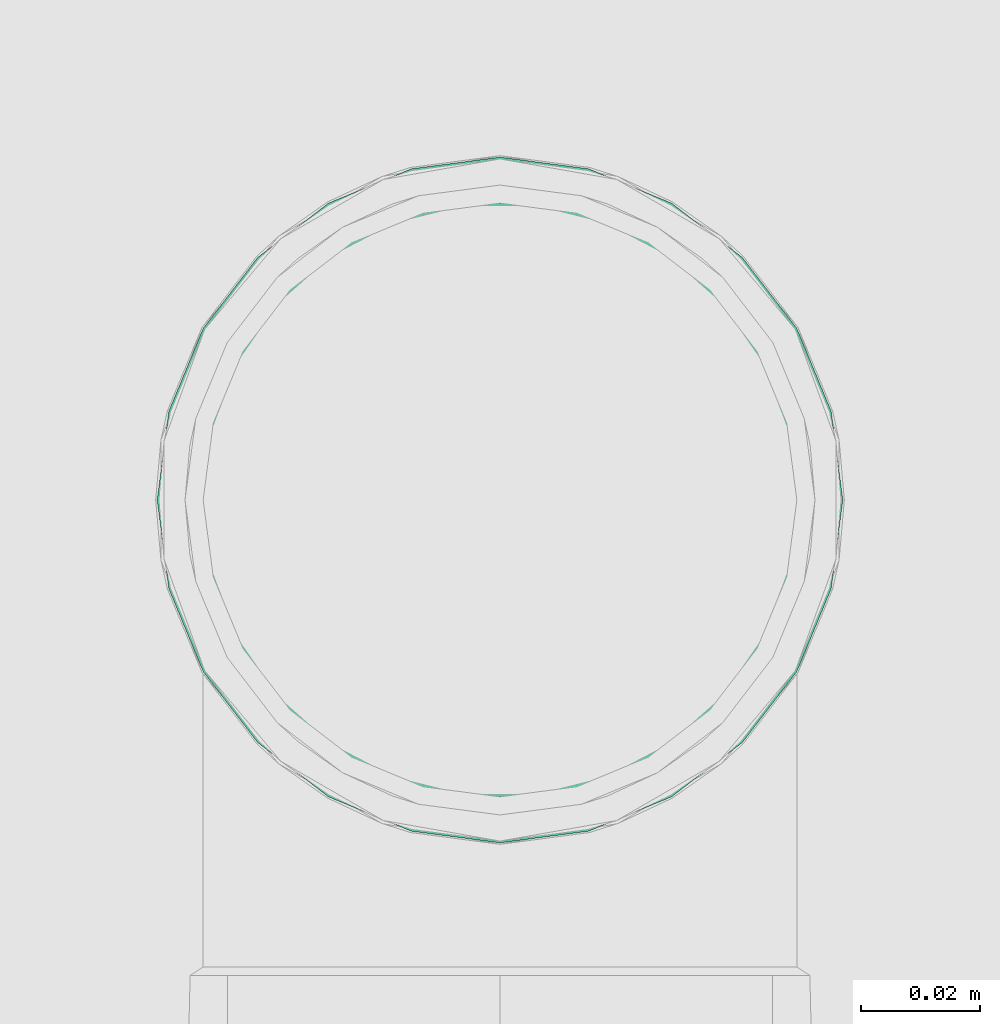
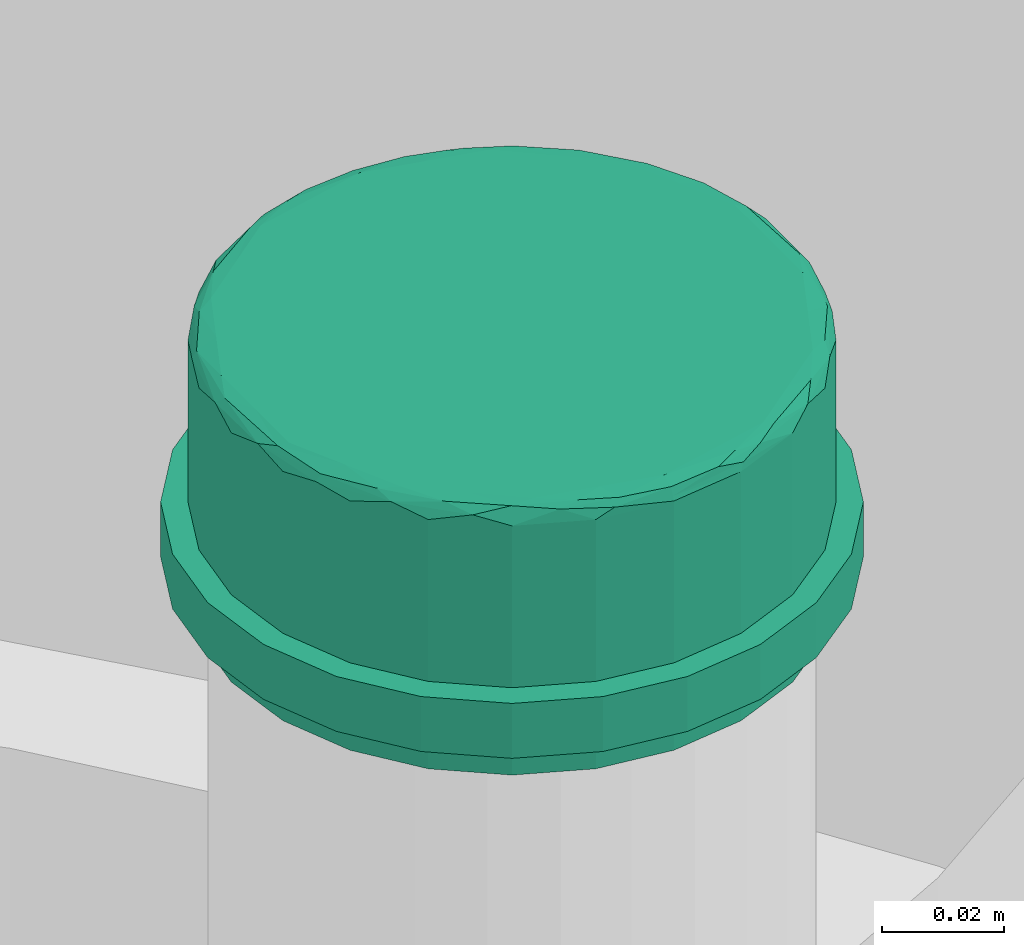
# One storey, part 176 of 589: 1 flow fitting.
"""IFC2X3 building model written with IfcOpenShell, lengths in millimetres."""

from ifc_helpers import new_model, entity, si_unit, converted_unit, derived_unit, direction, frame, origin, place, context, subcontext, project, spatial, faceted_brep, source, transform, mapped, material, type_object, type_shapes, element, save


model = new_model("IFC2X3")

# Units and contexts
model_context = context("Model", 3, precision=0.01, world=origin(), true_north=direction((6.123031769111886e-17, 1.0)))
body_context = subcontext(model_context, "Body", "Model", "MODEL_VIEW")
ifc_project = project(units=[si_unit("LENGTHUNIT", "METRE", prefix="MILLI"), si_unit("AREAUNIT", "SQUARE_METRE"), si_unit("VOLUMEUNIT", "CUBIC_METRE"), converted_unit("PLANEANGLEUNIT", "DEGREE", entity("IfcRatioMeasure", 0.017453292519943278), si_unit("PLANEANGLEUNIT", "RADIAN"), dimensions=[0, 0, 0, 0, 0, 0, 0]), si_unit("MASSUNIT", "GRAM", prefix="KILO"), derived_unit("MASSDENSITYUNIT", [(si_unit("MASSUNIT", "GRAM", prefix="KILO"), 1), (si_unit("LENGTHUNIT", "METRE"), -3)]), derived_unit("IONCONCENTRATIONUNIT", [(si_unit("MASSUNIT", "GRAM", prefix="KILO"), 1), (si_unit("LENGTHUNIT", "METRE"), -3)]), derived_unit("MOMENTOFINERTIAUNIT", [(si_unit("LENGTHUNIT", "METRE"), 4)]), si_unit("TIMEUNIT", "SECOND"), si_unit("FREQUENCYUNIT", "HERTZ"), si_unit("THERMODYNAMICTEMPERATUREUNIT", "DEGREE_CELSIUS"), derived_unit("THERMALTRANSMITTANCEUNIT", [(si_unit("MASSUNIT", "GRAM", prefix="KILO"), 1), (si_unit("THERMODYNAMICTEMPERATUREUNIT", "KELVIN"), -1), (si_unit("TIMEUNIT", "SECOND"), -3)]), derived_unit("THERMALCONDUCTANCEUNIT", [(si_unit("MASSUNIT", "GRAM", prefix="KILO"), 1), (si_unit("THERMODYNAMICTEMPERATUREUNIT", "KELVIN"), -1), (si_unit("TIMEUNIT", "SECOND"), -3), (si_unit("LENGTHUNIT", "METRE"), 1)]), derived_unit("VOLUMETRICFLOWRATEUNIT", [(si_unit("LENGTHUNIT", "METRE"), 3), (si_unit("TIMEUNIT", "SECOND"), -1)]), derived_unit("MASSFLOWRATEUNIT", [(si_unit("MASSUNIT", "GRAM", prefix="KILO"), 1), (si_unit("TIMEUNIT", "SECOND"), -1)]), derived_unit("ROTATIONALFREQUENCYUNIT", [(si_unit("TIMEUNIT", "SECOND"), -1)]), si_unit("ELECTRICCURRENTUNIT", "AMPERE"), si_unit("ELECTRICVOLTAGEUNIT", "VOLT"), si_unit("POWERUNIT", "WATT"), si_unit("FORCEUNIT", "NEWTON", prefix="KILO"), si_unit("ILLUMINANCEUNIT", "LUX"), si_unit("LUMINOUSFLUXUNIT", "LUMEN"), si_unit("LUMINOUSINTENSITYUNIT", "CANDELA"), derived_unit("USERDEFINED", [(si_unit("MASSUNIT", "GRAM", prefix="KILO"), -1), (si_unit("LENGTHUNIT", "METRE"), -2), (si_unit("TIMEUNIT", "SECOND"), 3), (si_unit("LUMINOUSFLUXUNIT", "LUMEN"), 1)]), derived_unit("USERDEFINED", [(si_unit("MASSUNIT", "GRAM", prefix="KILO"), 1), (si_unit("TIMEUNIT", "SECOND"), -3), (si_unit("LENGTHUNIT", "METRE"), 3), (si_unit("ELECTRICCURRENTUNIT", "AMPERE"), -2)]), derived_unit("SOUNDPOWERUNIT", [(si_unit("MASSUNIT", "GRAM", prefix="KILO"), 1), (si_unit("TIMEUNIT", "SECOND"), -3), (si_unit("LENGTHUNIT", "METRE"), 2)]), derived_unit("SOUNDPRESSUREUNIT", [(si_unit("MASSUNIT", "GRAM", prefix="KILO"), 1), (si_unit("LENGTHUNIT", "METRE"), -1), (si_unit("TIMEUNIT", "SECOND"), -2)]), derived_unit("LINEARVELOCITYUNIT", [(si_unit("LENGTHUNIT", "METRE"), 1), (si_unit("TIMEUNIT", "SECOND"), -1)]), si_unit("PRESSUREUNIT", "PASCAL"), derived_unit("USERDEFINED", [(si_unit("MASSUNIT", "GRAM", prefix="KILO"), 1), (si_unit("LENGTHUNIT", "METRE"), -2), (si_unit("TIMEUNIT", "SECOND"), -2)]), derived_unit("LINEARFORCEUNIT", [(si_unit("MASSUNIT", "GRAM", prefix="KILO"), 1), (si_unit("TIMEUNIT", "SECOND"), -2)]), derived_unit("PLANARFORCEUNIT", [(si_unit("MASSUNIT", "GRAM", prefix="KILO"), 1), (si_unit("LENGTHUNIT", "METRE"), -1), (si_unit("TIMEUNIT", "SECOND"), -2)]), derived_unit("SPECIFICHEATCAPACITYUNIT", [(si_unit("THERMODYNAMICTEMPERATUREUNIT", "KELVIN"), -1), (si_unit("LENGTHUNIT", "METRE"), 2), (si_unit("TIMEUNIT", "SECOND"), -2)]), derived_unit("HEATINGVALUEUNIT", [(si_unit("LENGTHUNIT", "METRE"), 2), (si_unit("TIMEUNIT", "SECOND"), -2)]), derived_unit("VAPORPERMEABILITYUNIT", [(si_unit("LENGTHUNIT", "METRE"), -1), (si_unit("TIMEUNIT", "SECOND"), 1)]), derived_unit("DYNAMICVISCOSITYUNIT", [(si_unit("MASSUNIT", "GRAM", prefix="KILO"), 1), (si_unit("TIMEUNIT", "SECOND"), -1), (si_unit("LENGTHUNIT", "METRE"), -1)]), derived_unit("THERMALEXPANSIONCOEFFICIENTUNIT", [(si_unit("THERMODYNAMICTEMPERATUREUNIT", "KELVIN"), -1)]), derived_unit("MODULUSOFELASTICITYUNIT", [(si_unit("MASSUNIT", "GRAM", prefix="KILO"), 1), (si_unit("LENGTHUNIT", "METRE"), -1), (si_unit("TIMEUNIT", "SECOND"), -2)]), derived_unit("ISOTHERMALMOISTURECAPACITYUNIT", [(si_unit("LENGTHUNIT", "METRE"), 3), (si_unit("MASSUNIT", "GRAM", prefix="KILO"), -1)]), derived_unit("MOISTUREDIFFUSIVITYUNIT", [(si_unit("TIMEUNIT", "SECOND"), -1), (si_unit("LENGTHUNIT", "METRE"), 2)])], contexts=[model_context])

# Site, building, storey
site_placement = place(None, origin())
site = spatial("IfcSite", under=ifc_project, at=site_placement, Name="Default", CompositionType="ELEMENT")
building_placement = place(site_placement, origin())
building = spatial("IfcBuilding", under=site, at=building_placement, CompositionType="ELEMENT")
storey_placement = place(building_placement, frame((0.0, 0.0, 100.0)))
storey = spatial("IfcBuildingStorey", under=building, at=storey_placement, Name="TÉRREO", CompositionType="ELEMENT", Elevation=100.0)

# Flow fitting
ifc_material = material(Name="PVC Série Normal")
pipe_fitting_type = type_object("IfcPipeFittingType", Name="PVC Esgoto_Cap_Rodrigo MEP:a. Série Normal", PredefinedType="NOTDEFINED", material=ifc_material)
shared_shape = source(origin(), body_context, "Body", "Brep", [
    faceted_brep([(5.21, 25.0, -43.30127018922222), (5.21, 37.65343609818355, -37.65343609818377), (5.21, 26.624999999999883, -46.11585275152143), (5.21, 12.940952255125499, -48.29629131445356), (5.21, 35.355339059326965, -35.3553390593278), (5.21, 46.115852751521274, -26.62500000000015), (5.21, 43.30127018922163, -25.0), (5.21, 48.296291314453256, -12.940952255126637), (5.21, 51.435550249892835, -13.782114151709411), (5.21, 50.0, 0.0), (5.21, 53.25, 0.0), (5.21, 48.29629131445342, 12.94095225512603), (5.21, 51.435550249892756, 13.78211415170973), (5.21, 43.301270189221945, 25.0), (5.21, 46.11585275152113, 26.62500000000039), (5.21, 35.35533905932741, 35.355339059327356), (5.21, 37.65343609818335, 37.65343609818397), (5.21, 25.0, 43.30127018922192), (5.21, 26.624999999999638, 46.11585275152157), (5.21, 12.940952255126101, 48.2962913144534), (5.21, 13.78211415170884, 51.43555024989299), (5.21, 0.0, 50.0), (5.21, 0.0, 53.25), (5.21, -12.940952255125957, 48.29629131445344), (5.21, -13.782114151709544, 51.435550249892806), (5.21, -25.0, 43.30127018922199), (5.21, -26.625000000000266, 46.1158527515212), (5.21, -35.35533905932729, 35.35533905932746), (5.21, -37.653436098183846, 37.65343609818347), (5.21, -43.301270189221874, 25.0), (5.21, -46.11585275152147, 26.6249999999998), (5.21, -51.43555024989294, 13.782114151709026), (5.21, -48.29629131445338, 12.940952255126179), (5.21, -53.25, 0.0), (5.21, -50.0, 0.0), (5.21, -51.435550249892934, -13.782114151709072), (5.21, -48.29629131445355, -12.940952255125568), (5.21, -46.11585275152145, -26.624999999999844), (5.21, -43.3012701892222, -25.0), (5.21, -37.65343609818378, -37.65343609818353), (5.21, -35.35533905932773, -35.35533905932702), (5.21, -26.625000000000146, -46.115852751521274), (5.21, -25.0, -43.301270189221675), (5.21, -13.782114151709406, -51.435550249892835), (5.21, -12.940952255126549, -48.296291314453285), (5.21, 0.0, -53.25), (5.21, 0.0, -50.0), (5.21, 13.78211415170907, -51.435550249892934), (17.53, 28.875000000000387, -50.012967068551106), (17.53, 40.83541661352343, -40.83541661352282), (17.53, 25.0, -43.30127018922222), (17.53, 12.940952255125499, -48.29629131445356), (17.53, 14.946799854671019, -55.782216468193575), (17.53, 35.355339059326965, -35.3553390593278), (17.53, 50.01296706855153, -28.87499999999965), (17.53, 43.30127018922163, -25.0), (17.53, 48.296291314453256, -12.940952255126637), (17.53, 55.782216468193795, -14.946799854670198), (17.53, 50.0, 0.0), (17.53, 57.75, 0.0), (17.53, 48.29629131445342, 12.94095225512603), (17.53, 55.782216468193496, 14.946799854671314), (17.53, 43.301270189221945, 25.0), (17.53, 50.01296706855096, 28.875000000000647), (17.53, 35.35533905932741, 35.355339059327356), (17.53, 40.83541661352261, 40.83541661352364), (17.53, 25.0, 43.30127018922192), (17.53, 28.874999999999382, 50.012967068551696), (17.53, 12.940952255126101, 48.2962913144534), (17.53, 14.946799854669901, 55.78221646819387), (17.53, 0.0, 50.0), (17.53, 0.0, 57.75), (17.53, -12.940952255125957, 48.29629131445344), (17.53, -14.94679985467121, 55.78221646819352), (17.53, -25.0, 43.30127018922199), (17.53, -28.8750000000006, 50.012967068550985), (17.53, -35.35533905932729, 35.35533905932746), (17.53, -40.83541661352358, 40.83541661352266), (17.53, -43.301270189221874, 25.0), (17.53, -50.01296706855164, 28.874999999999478), (17.53, -55.78221646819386, 14.946799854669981), (17.53, -48.29629131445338, 12.940952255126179), (17.53, -57.75, 0.0), (17.53, -50.0, 0.0), (17.53, -55.78221646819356, -14.946799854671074), (17.53, -48.29629131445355, -12.940952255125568), (17.53, -50.012967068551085, -28.875000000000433), (17.53, -43.3012701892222, -25.0), (17.53, -40.83541661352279, -40.83541661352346), (17.53, -35.35533905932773, -35.35533905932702), (17.53, -28.8749999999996, -50.01296706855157), (17.53, -25.0, -43.301270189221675), (17.53, -14.946799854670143, -55.782216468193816), (17.53, -12.940952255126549, -48.296291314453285), (17.53, 0.0, -57.75), (17.53, 0.0, -50.0), (6.5125, 57.75, 0.0), (6.5125, 55.78221646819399, -14.946799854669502), (6.512499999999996, 50.01296706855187, -28.874999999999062), (6.5125, 40.8354166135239, -40.83541661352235), (6.5125, 28.87500000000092, -50.01296706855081), (6.5125, 14.946799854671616, -55.78221646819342), (6.5125, 0.0, -57.75), (6.512500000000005, -14.94679985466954, -55.78221646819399), (6.512500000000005, -28.87499999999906, -50.01296706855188), (6.512500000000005, -40.835416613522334, -40.83541661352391), (6.512500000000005, -50.01296706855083, -28.875000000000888), (6.5125, -55.782216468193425, -14.94679985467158), (6.5125, -57.75, 0.0), (6.512500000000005, -55.78221646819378, 14.946799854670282), (6.512499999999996, -50.01296706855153, 28.87499999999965), (6.512499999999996, -40.83541661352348, 40.835416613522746), (6.5125, -28.87500000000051, 50.012967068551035), (6.512499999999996, -14.94679985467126, 55.7822164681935), (6.5125, 0.0, 57.75), (6.5125, 14.946799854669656, 55.782216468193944), (6.512500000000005, 28.874999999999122, 50.01296706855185), (6.512500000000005, 40.835416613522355, 40.835416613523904), (6.512499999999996, 50.012967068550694, 28.875000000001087), (6.5125, 55.78221646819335, 14.946799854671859)], [[[0, 1, 2]], [[3, 0, 2]], [[4, 1, 0]], [[1, 4, 5]], [[6, 5, 4]], [[7, 5, 6]], [[5, 7, 8]], [[7, 9, 8]], [[10, 8, 9]], [[10, 9, 11]], [[11, 12, 10]], [[13, 12, 11]], [[12, 13, 14]], [[15, 14, 13]], [[16, 14, 15]], [[16, 15, 17]], [[17, 18, 16]], [[19, 18, 17]], [[18, 19, 20]], [[21, 20, 19]], [[22, 20, 21]], [[23, 22, 21]], [[24, 22, 23]], [[25, 24, 23]], [[24, 25, 26]], [[26, 25, 27]], [[28, 26, 27]], [[27, 29, 28]], [[28, 29, 30]], [[31, 30, 29]], [[29, 32, 31]], [[31, 32, 33]], [[32, 34, 33]], [[33, 34, 35]], [[34, 36, 35]], [[37, 35, 36]], [[36, 38, 37]], [[39, 37, 38]], [[40, 39, 38]], [[40, 41, 39]], [[41, 40, 42]], [[43, 41, 42]], [[42, 44, 43]], [[43, 44, 45]], [[44, 46, 45]], [[46, 3, 47]], [[45, 46, 47]], [[2, 47, 3]], [[48, 49, 50]], [[48, 50, 51]], [[51, 52, 48]], [[50, 49, 53]], [[54, 53, 49]], [[55, 53, 54]], [[56, 55, 54]], [[56, 54, 57]], [[56, 57, 58]], [[58, 57, 59]], [[60, 58, 59]], [[60, 59, 61]], [[62, 60, 61]], [[62, 61, 63]], [[64, 62, 63]], [[63, 65, 64]], [[65, 66, 64]], [[65, 67, 66]], [[66, 67, 68]], [[69, 68, 67]], [[68, 69, 70]], [[70, 69, 71]], [[70, 71, 72]], [[72, 71, 73]], [[72, 73, 74]], [[75, 74, 73]], [[75, 76, 74]], [[76, 75, 77]], [[78, 76, 77]], [[79, 78, 77]], [[80, 78, 79]], [[81, 78, 80]], [[81, 80, 82]], [[83, 81, 82]], [[84, 83, 82]], [[84, 85, 83]], [[85, 84, 86]], [[87, 85, 86]], [[87, 86, 88]], [[87, 88, 89]], [[88, 90, 89]], [[89, 90, 91]], [[91, 90, 92]], [[92, 93, 91]], [[94, 93, 92]], [[52, 95, 94]], [[94, 95, 93]], [[52, 51, 95]], [[10, 96, 97, 8]], [[8, 97, 98, 5]], [[2, 1, 99, 100]], [[98, 99, 1, 5]], [[47, 2, 100, 101]], [[102, 45, 47, 101]], [[43, 103, 104, 41]], [[41, 104, 105, 39]], [[35, 37, 106, 107]], [[105, 106, 37, 39]], [[33, 35, 107, 108]], [[43, 45, 102, 103]], [[33, 108, 109, 31]], [[31, 109, 110, 30]], [[26, 28, 111, 112]], [[110, 111, 28, 30]], [[24, 26, 112, 113]], [[114, 22, 24, 113]], [[20, 115, 116, 18]], [[18, 116, 117, 16]], [[12, 14, 118, 119]], [[117, 118, 14, 16]], [[10, 12, 119, 96]], [[20, 22, 114, 115]], [[57, 97, 96, 59]], [[54, 98, 97, 57]], [[99, 49, 48, 100]], [[54, 49, 99, 98]], [[100, 48, 52, 101]], [[101, 52, 94, 102]], [[90, 104, 103, 92]], [[88, 105, 104, 90]], [[106, 86, 84, 107]], [[88, 86, 106, 105]], [[107, 84, 82, 108]], [[103, 102, 94, 92]], [[80, 109, 108, 82]], [[79, 110, 109, 80]], [[111, 77, 75, 112]], [[79, 77, 111, 110]], [[112, 75, 73, 113]], [[113, 73, 71, 114]], [[67, 116, 115, 69]], [[65, 117, 116, 67]], [[118, 63, 61, 119]], [[65, 63, 118, 117]], [[119, 61, 59, 96]], [[115, 114, 71, 69]], [[34, 83, 85, 36]], [[36, 85, 87, 38]], [[42, 40, 89, 91]], [[89, 40, 38, 87]], [[44, 42, 91, 93]], [[44, 93, 95, 46]], [[46, 95, 51, 3]], [[3, 51, 50, 0]], [[6, 4, 53, 55]], [[53, 4, 0, 50]], [[7, 6, 55, 56]], [[7, 56, 58, 9]], [[9, 58, 60, 11]], [[11, 60, 62, 13]], [[17, 15, 64, 66]], [[64, 15, 13, 62]], [[19, 17, 66, 68]], [[19, 68, 70, 21]], [[21, 70, 72, 23]], [[23, 72, 74, 25]], [[29, 27, 76, 78]], [[76, 27, 25, 74]], [[32, 29, 78, 81]], [[32, 81, 83, 34]]]),
    faceted_brep([(53.24999999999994, 0.0, 0.0), (53.24999999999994, -45.048443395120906, -21.69418695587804), (53.24999999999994, -38.111466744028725, -30.39288053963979), (53.24999999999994, -31.17449009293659, -39.09157412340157), (53.24999999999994, -21.1502683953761, -43.91898486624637), (53.24999999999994, -11.126046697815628, -48.746395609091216), (53.24999999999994, 0.0, -48.746395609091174), (53.24999999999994, -47.524221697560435, -10.847093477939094), (53.24999999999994, -50.0, 0.0), (53.24999999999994, 11.126046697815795, -48.746395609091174), (53.24999999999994, 21.150268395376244, -43.9189848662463), (53.24999999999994, 31.174490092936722, -39.09157412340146), (53.24999999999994, 38.11146674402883, -30.392880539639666), (53.24999999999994, 45.04844339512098, -21.694186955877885), (53.24999999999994, 47.52422169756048, -10.847093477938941), (53.24999999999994, 50.0, 0.0), (53.24999999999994, 47.52422169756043, 10.847093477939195), (53.24999999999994, -47.5242216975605, 10.84709347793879), (53.24999999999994, -45.04844339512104, 21.694186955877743), (53.24999999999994, -38.111466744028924, 30.392880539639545), (53.24999999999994, -31.174490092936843, 39.091574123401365), (53.24999999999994, -21.150268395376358, 43.91898486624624), (53.24999999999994, -11.126046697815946, 48.74639560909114), (53.24999999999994, 45.04844339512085, 21.694186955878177), (53.24999999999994, 38.1114667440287, 30.392880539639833), (53.24999999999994, 31.174490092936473, 39.09157412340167), (53.24999999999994, 21.150268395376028, 43.9189848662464), (53.24999999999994, 11.126046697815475, 48.746395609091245), (53.24999999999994, 0.0, 48.74639560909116), (50.0, -50.0, 0.0), (50.0, 0.0, 0.0), (50.0, -48.2962913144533, -12.940952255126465), (50.0, -48.29629131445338, 12.940952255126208), (50.0, -43.30127018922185, 25.0), (50.0, -35.35533905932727, 35.355339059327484), (50.0, -25.0, 43.301270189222), (50.0, -12.94095225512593, 48.29629131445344), (50.0, 0.0, 50.0), (50.0, 12.940952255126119, 48.29629131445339), (50.0, 25.0, 43.301270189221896), (50.0, 35.35533905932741, 35.35533905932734), (50.0, 43.30127018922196, 25.0), (50.0, 48.29629131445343, 12.94095225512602), (50.0, 50.0, 0.0), (50.0, 48.29629131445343, -12.940952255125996), (50.0, 43.301270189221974, -25.0), (50.0, 35.35533905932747, -35.355339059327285), (50.0, 25.0, -43.30127018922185), (50.0, 12.94095225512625, -48.296291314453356), (50.0, 0.0, -50.0), (50.0, -12.940952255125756, -48.2962913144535), (50.0, -25.0, -43.301270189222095), (50.0, -35.355339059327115, -35.35533905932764), (50.0, -43.30127018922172, -25.0), (53.00458680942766, 48.81487662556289, -15.573573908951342), (52.63393157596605, 51.09920137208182, -9.10430348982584), (52.858005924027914, 44.586781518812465, -25.867905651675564), (51.62732470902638, 42.169557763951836, -31.795701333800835), (52.29182462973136, 48.73853311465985, -18.981587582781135), (52.855548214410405, 29.183345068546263, -42.49622488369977), (52.883936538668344, 38.04021623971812, -34.713603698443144), (50.0, 46.11585275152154, -26.62499999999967), (51.76459863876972, 6.955689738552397, -52.26844157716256), (52.85724259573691, -5.592315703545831, -51.244520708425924), (51.6273247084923, -6.956672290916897, -52.35306042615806), (51.54479934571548, 51.820871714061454, -10.426507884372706), (50.0, 0.0, -53.24999999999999), (50.0, 13.782114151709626, -51.43555024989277), (50.0, 37.653436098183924, -37.65343609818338), (50.0, 53.24999999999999, 0.0), (50.819679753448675, 52.9104775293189, 0.0), (52.298097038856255, 52.29809703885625, 0.0), (50.0, 51.43555024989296, -13.782114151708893), (51.76459863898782, 32.391409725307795, -41.60730922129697), (51.115246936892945, 20.39612755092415, -48.975326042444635), (50.0, 26.625000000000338, -46.11585275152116), (52.35926530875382, 20.354846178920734, -48.106155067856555), (51.6273247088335, -42.169557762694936, -31.79570133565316), (50.0, -37.653436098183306, -37.65343609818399), (51.7645986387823, -32.39140972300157, -41.60730922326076), (52.3592653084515, -20.354846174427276, -48.106155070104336), (52.85554821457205, -29.183345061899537, -42.49622488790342), (50.0, -13.782114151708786, -51.435550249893), (52.835996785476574, 10.495005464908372, -50.508490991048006), (50.0, -26.6249999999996, -46.11585275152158), (51.115246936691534, -20.396127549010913, -48.97532604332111), (52.298097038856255, -52.29809703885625, 0.0), (52.38411664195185, -51.331745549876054, -9.529080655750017), (52.58172941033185, -51.613347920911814, 0.0), (52.88393653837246, -38.0402162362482, -34.7136037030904), (52.94430490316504, -45.8256647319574, -23.22733347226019), (50.819679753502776, -52.91047752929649, 0.0), (50.0, -46.1158527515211, -26.625000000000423), (52.29182462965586, -48.738533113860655, -18.98158758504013), (51.3494443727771, -50.935684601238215, -14.489920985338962), (52.97645390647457, -49.43475697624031, -13.726455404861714), (52.5817294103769, 51.613347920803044, 0.0), (50.0, -51.43555024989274, -13.782114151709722), (50.0, -53.24999999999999, 0.0), (53.00458680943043, -48.81487662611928, 15.573573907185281), (52.633931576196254, -51.099201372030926, 9.104303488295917), (52.85800592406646, -44.5867815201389, 25.867905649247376), (51.62732470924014, -42.16955776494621, 31.79570133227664), (52.29182462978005, -48.73853311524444, 18.981587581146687), (52.855548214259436, -29.183345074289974, 42.49622488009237), (52.88393653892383, -38.04021624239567, 34.713603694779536), (50.0, -46.115852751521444, 26.62499999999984), (51.764598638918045, -6.955689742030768, 52.268441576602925), (52.85724259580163, 5.592315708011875, 51.24452070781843), (51.62732470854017, 6.956672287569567, 52.353060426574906), (51.54479934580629, -51.82087171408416, 10.426507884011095), (50.0, 0.0, 53.24999999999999), (50.0, -13.782114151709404, 51.43555024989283), (50.0, -37.65343609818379, 37.65343609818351), (50.0, -51.43555024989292, 13.78211415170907), (52.35926530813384, 20.35484616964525, 48.10615507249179), (51.62732470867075, 42.1695577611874, 31.795701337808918), (50.0, 37.653436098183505, 37.65343609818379), (51.76459863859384, 32.39140972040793, 41.607309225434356), (52.35926530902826, -20.354846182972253, 48.10615506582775), (51.11524693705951, -20.396127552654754, 48.97532604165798), (51.76459863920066, -32.39140972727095, 41.60730921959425), (50.0, -26.625000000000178, 46.115852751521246), (52.83599678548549, -10.495005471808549, 50.50849098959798), (50.0, 26.624999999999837, 46.115852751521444), (50.0, 13.782114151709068, 51.43555024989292), (51.115246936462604, 20.39612754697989, 48.97532604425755), (52.38411664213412, 51.33174554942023, 9.529080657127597), (52.88393653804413, 38.0402162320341, 34.71360370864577), (52.94430490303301, 45.825664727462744, 23.227333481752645), (52.97645390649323, 49.43475697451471, 13.72645541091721), (50.0, 46.11585275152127, 26.625000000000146), (52.29182462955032, 48.73853311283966, 18.981587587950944), (51.34944437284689, 50.93568460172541, 14.489920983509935), (52.855548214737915, 29.183345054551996, 42.496224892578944), (50.0, 51.43555024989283, 13.782114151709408), (0.0, -26.625000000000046, -46.11585275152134), (0.0, -37.65343609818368, -37.65343609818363), (0.0, -25.0, -43.30127018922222), (0.0, -12.940952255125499, -48.29629131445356), (0.0, -13.7821141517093, -51.43555024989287), (0.0, -35.355339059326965, -35.3553390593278), (0.0, -46.11585275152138, -26.62499999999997), (0.0, -43.30127018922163, -25.0), (0.0, -48.296291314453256, -12.940952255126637), (0.0, -51.43555024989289, -13.78211415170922), (0.0, -50.0, 0.0), (0.0, -53.25, 0.0), (0.0, -48.29629131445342, 12.94095225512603), (0.0, -51.43555024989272, 13.782114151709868), (0.0, -43.301270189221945, 25.0), (0.0, -46.11585275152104, 26.625000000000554), (0.0, -35.3553390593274, 35.355339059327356), (0.0, -37.653436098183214, 37.6534360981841), (0.0, -25.0, 43.30127018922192), (0.0, -26.62499999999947, 46.115852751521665), (0.0, -12.940952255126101, 48.2962913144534), (0.0, -13.782114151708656, 51.43555024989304), (0.0, 0.0, 50.0), (0.0, 0.0, 53.25), (0.0, 12.940952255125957, 48.29629131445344), (0.0, 13.782114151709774, 51.435550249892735), (0.0, 25.0, 43.30127018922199), (0.0, 26.625000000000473, 46.11585275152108), (0.0, 35.35533905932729, 35.35533905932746), (0.0, 37.65343609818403, 37.65343609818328), (0.0, 43.301270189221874, 25.0), (0.0, 46.11585275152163, 26.624999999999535), (0.0, 51.43555024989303, 13.782114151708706), (0.0, 48.29629131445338, 12.940952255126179), (0.0, 53.25, 0.0), (0.0, 50.0, 0.0), (0.0, 51.43555024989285, -13.782114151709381), (0.0, 48.29629131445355, -12.940952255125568), (0.0, 46.115852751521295, -26.625000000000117), (0.0, 43.3012701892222, -25.0), (0.0, 37.65343609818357, -37.65343609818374), (0.0, 35.35533905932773, -35.35533905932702), (0.0, 26.624999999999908, -46.11585275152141), (0.0, 25.0, -43.301270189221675), (0.0, 13.782114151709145, -51.43555024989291), (0.0, 12.940952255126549, -48.296291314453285), (0.0, 0.0, -53.25), (0.0, 0.0, -50.0), (5.210000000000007, 53.25, 0.0), (5.209999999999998, -53.25, 0.0)], [[[0, 1, 2]], [[0, 2, 3]], [[0, 3, 4]], [[0, 4, 5]], [[0, 5, 6]], [[0, 7, 1]], [[0, 8, 7]], [[0, 6, 9]], [[0, 9, 10]], [[0, 10, 11]], [[0, 11, 12]], [[0, 12, 13]], [[0, 13, 14]], [[0, 14, 15]], [[0, 15, 16]], [[0, 17, 8]], [[0, 18, 17]], [[0, 19, 18]], [[0, 20, 19]], [[0, 21, 20]], [[0, 22, 21]], [[0, 16, 23]], [[0, 23, 24]], [[0, 24, 25]], [[0, 25, 26]], [[0, 26, 27]], [[0, 27, 28]], [[0, 28, 22]], [[29, 30, 31]], [[29, 32, 30]], [[32, 33, 30]], [[33, 34, 30]], [[35, 30, 34]], [[30, 35, 36]], [[36, 37, 30]], [[38, 30, 37]], [[30, 38, 39]], [[30, 39, 40]], [[41, 30, 40]], [[30, 41, 42]], [[42, 43, 30]], [[30, 43, 44]], [[30, 44, 45]], [[46, 30, 45]], [[47, 30, 46]], [[48, 30, 47]], [[30, 48, 49]], [[30, 49, 50]], [[30, 50, 51]], [[52, 30, 51]], [[53, 30, 52]], [[31, 30, 53]], [[14, 54, 55]], [[56, 57, 58]], [[59, 60, 11]], [[61, 58, 57]], [[62, 63, 64]], [[55, 58, 65]], [[54, 56, 58]], [[66, 67, 62]], [[68, 61, 57]], [[65, 69, 70, 71]], [[61, 72, 58]], [[73, 74, 75]], [[65, 58, 72]], [[76, 74, 73]], [[75, 74, 67]], [[77, 78, 79]], [[68, 57, 73]], [[80, 4, 81]], [[74, 62, 67]], [[56, 12, 60]], [[82, 66, 64]], [[83, 63, 62]], [[83, 62, 76]], [[84, 82, 85]], [[86, 87, 88]], [[6, 63, 83]], [[89, 77, 79]], [[90, 77, 89]], [[85, 64, 80]], [[87, 86, 91]], [[84, 79, 78]], [[64, 66, 62]], [[79, 84, 85]], [[73, 57, 60]], [[80, 64, 63]], [[92, 93, 94]], [[87, 94, 93]], [[88, 87, 95]], [[77, 92, 78]], [[59, 10, 76]], [[3, 89, 81]], [[73, 75, 68]], [[5, 63, 6]], [[73, 60, 59]], [[81, 79, 80]], [[93, 92, 77]], [[90, 2, 1]], [[90, 1, 95]], [[9, 83, 10]], [[73, 59, 76]], [[59, 11, 10]], [[79, 81, 89]], [[63, 5, 80]], [[4, 80, 5]], [[4, 3, 81]], [[62, 74, 76]], [[64, 85, 82]], [[79, 85, 80]], [[69, 65, 72]], [[55, 65, 71]], [[55, 71, 96, 15]], [[55, 15, 14]], [[55, 54, 58]], [[14, 13, 54]], [[89, 3, 2]], [[13, 56, 54]], [[57, 56, 60]], [[1, 7, 8, 95]], [[91, 97, 94]], [[8, 88, 95]], [[95, 87, 93]], [[91, 94, 87]], [[98, 97, 91]], [[92, 94, 97]], [[95, 93, 90]], [[77, 90, 93]], [[90, 89, 2]], [[10, 83, 76]], [[83, 9, 6]], [[12, 56, 13]], [[12, 11, 60]], [[17, 99, 100]], [[101, 102, 103]], [[104, 105, 20]], [[106, 103, 102]], [[107, 108, 109]], [[100, 103, 110]], [[99, 101, 103]], [[111, 112, 107]], [[113, 106, 102]], [[110, 98, 91, 86]], [[106, 114, 103]], [[115, 109, 108]], [[116, 117, 118]], [[119, 120, 121]], [[122, 120, 112]], [[121, 120, 122]], [[113, 102, 121]], [[110, 103, 114]], [[120, 107, 112]], [[101, 19, 105]], [[111, 107, 109]], [[123, 107, 119]], [[124, 125, 126]], [[109, 125, 111]], [[71, 127, 96]], [[28, 108, 123]], [[128, 116, 118]], [[128, 129, 116]], [[126, 109, 115]], [[71, 70, 127]], [[104, 21, 119]], [[121, 122, 113]], [[118, 124, 126]], [[124, 118, 117]], [[96, 127, 130]], [[131, 132, 133]], [[127, 133, 132]], [[121, 102, 105]], [[116, 131, 117]], [[115, 26, 134]], [[25, 128, 134]], [[123, 108, 107]], [[27, 108, 28]], [[121, 105, 104]], [[134, 118, 115]], [[132, 131, 116]], [[129, 24, 23]], [[129, 23, 130]], [[22, 123, 21]], [[121, 104, 119]], [[104, 20, 21]], [[118, 134, 128]], [[108, 27, 115]], [[26, 115, 27]], [[26, 25, 134]], [[107, 120, 119]], [[109, 126, 125]], [[118, 126, 115]], [[98, 110, 114]], [[100, 110, 86]], [[100, 86, 88, 8]], [[100, 8, 17]], [[100, 99, 103]], [[17, 18, 99]], [[128, 25, 24]], [[18, 101, 99]], [[102, 101, 105]], [[23, 16, 15, 130]], [[70, 135, 133]], [[15, 96, 130]], [[130, 127, 132]], [[70, 133, 127]], [[69, 135, 70]], [[131, 133, 135]], [[130, 132, 129]], [[116, 129, 132]], [[129, 128, 24]], [[21, 123, 119]], [[123, 22, 28]], [[19, 101, 18]], [[19, 20, 105]], [[136, 137, 138]], [[136, 138, 139]], [[139, 140, 136]], [[138, 137, 141]], [[142, 141, 137]], [[141, 142, 143]], [[143, 142, 144]], [[145, 144, 142]], [[145, 146, 144]], [[146, 145, 147]], [[148, 146, 147]], [[147, 149, 148]], [[148, 149, 150]], [[151, 150, 149]], [[150, 151, 152]], [[152, 151, 153]], [[154, 152, 153]], [[153, 155, 154]], [[154, 155, 156]], [[157, 156, 155]], [[156, 157, 158]], [[158, 157, 159]], [[158, 159, 160]], [[160, 159, 161]], [[160, 161, 162]], [[163, 162, 161]], [[164, 162, 163]], [[164, 163, 165]], [[165, 166, 164]], [[167, 166, 165]], [[166, 167, 168]], [[168, 169, 166]], [[170, 169, 168]], [[170, 171, 169]], [[172, 171, 170]], [[172, 173, 171]], [[173, 172, 174]], [[174, 175, 173]], [[175, 174, 176]], [[175, 176, 177]], [[176, 178, 177]], [[179, 177, 178]], [[179, 178, 180]], [[180, 181, 179]], [[182, 181, 180]], [[140, 183, 182]], [[182, 183, 181]], [[140, 139, 183]], [[170, 168, 135, 69, 184]], [[131, 167, 165, 117]], [[124, 117, 165, 163]], [[168, 167, 131, 135]], [[124, 163, 161, 125]], [[161, 159, 111, 125]], [[112, 111, 159, 157]], [[155, 122, 112, 157]], [[151, 149, 114, 106]], [[106, 113, 153, 151]], [[113, 122, 155, 153]], [[185, 98, 114, 149, 147]], [[147, 145, 97, 98, 185]], [[142, 137, 78, 92]], [[137, 136, 84, 78]], [[145, 142, 92, 97]], [[84, 136, 140, 82]], [[182, 66, 82, 140]], [[67, 66, 182, 180]], [[178, 75, 67, 180]], [[174, 172, 72, 61]], [[61, 68, 176, 174]], [[68, 75, 178, 176]], [[184, 69, 72, 172, 170]], [[43, 171, 173, 44]], [[44, 173, 175, 45]], [[49, 48, 181, 183]], [[45, 175, 177, 46]], [[177, 179, 47, 46]], [[179, 181, 48, 47]], [[51, 50, 139, 138]], [[51, 138, 141, 52]], [[31, 53, 143, 144]], [[141, 143, 53, 52]], [[29, 31, 144, 146]], [[183, 139, 50, 49]], [[29, 146, 148, 32]], [[32, 148, 150, 33]], [[152, 34, 33, 150]], [[154, 35, 34, 152]], [[36, 156, 158, 37]], [[35, 154, 156, 36]], [[39, 38, 160, 162]], [[39, 162, 164, 40]], [[42, 41, 166, 169]], [[164, 166, 41, 40]], [[43, 42, 169, 171]], [[158, 160, 38, 37]]]),
])
type_shapes(pipe_fitting_type, [shared_shape])
flow_fitting_placement = place(storey_placement, frame((20055.667196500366, -9094.0021263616, -367.54999999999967), z_axis=(1.0, 0.0, 0.0), x_axis=(0.0, 0.0, 1.0)))
element("IfcFlowFitting", 1, at=flow_fitting_placement, inside=storey, type_object=pipe_fitting_type, material=ifc_material, Name="PVC Esgoto_Cap_Rodrigo MEP:a. Série Normal", ObjectType="PVC Esgoto_Cap_Rodrigo MEP:a. Série Normal", context=body_context, shape_type="MappedRepresentation", body=[
    mapped(shared_shape, transform((0.0, 0.0, 0.0), scale=1.0)),
])

save(model, "model.ifc")
